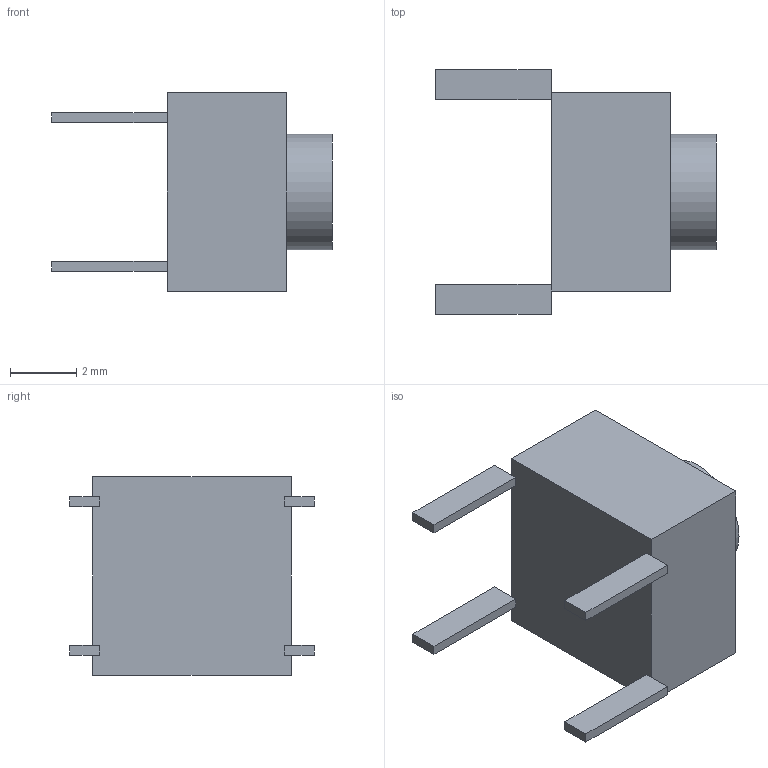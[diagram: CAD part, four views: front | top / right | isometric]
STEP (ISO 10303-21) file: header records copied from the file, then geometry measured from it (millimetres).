
FILE_DESCRIPTION(('Open CASCADE Model'),'2;1');
FILE_NAME('Open CASCADE Shape Model','2026-09-15T14:24:32',('Author'),( 'Open CASCADE'),'Open CASCADE STEP processor 7.7','Open CASCADE 7.7' ,'Unknown');
FILE_SCHEMA(('AUTOMOTIVE_DESIGN { 1 0 10303 214 1 1 1 1 }'));
Length unit declared in the file: millimetre
Products named in the file (7): Open CASCADE STEP translator 7.7 59; Open CASCADE STEP translator 7.7 59.1; Open CASCADE STEP translator 7.7 59.2; Open CASCADE STEP translator 7.7 59.3; Open CASCADE STEP translator 7.7 59.4; Open CASCADE STEP translator 7.7 59.5; Open CASCADE STEP translator 7.7 59.6
Assembly tree (6 placements, depth 2):
  Open CASCADE STEP translator 7.7 59
    Open CASCADE STEP translator 7.7 59.1
    Open CASCADE STEP translator 7.7 59.2
    Open CASCADE STEP translator 7.7 59.3
    Open CASCADE STEP translator 7.7 59.4
    Open CASCADE STEP translator 7.7 59.5
    Open CASCADE STEP translator 7.7 59.6
Bounding box: 8.5 x 7.4 x 6 mm (x, y, z)
Volume: 146.8 mm3; surface area: 228.8 mm2
Topology: 6 solids, 6 shells, 33 faces, 63 edges, 42 vertices
Faces by surface type: plane 32, cylinder 1
Full cylindrical faces by diameter (mm): 3.5 x1
Entity records: 1746 total; most frequent: CARTESIAN_POINT 271, DIRECTION 271, LINE 185, VECTOR 185, ORIENTED_EDGE 126, PCURVE 126, DEFINITIONAL_REPRESENTATION 126, EDGE_CURVE 63
